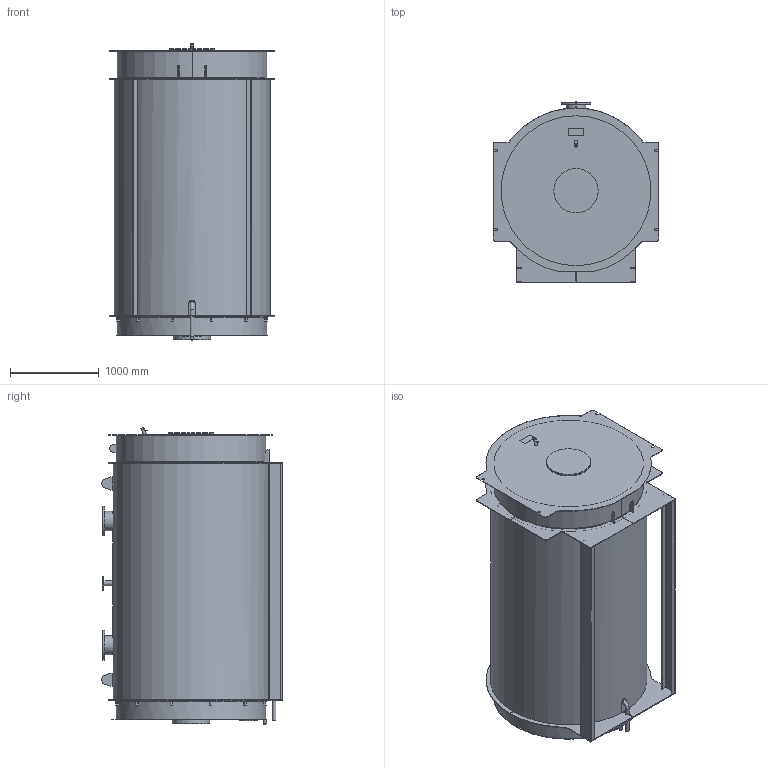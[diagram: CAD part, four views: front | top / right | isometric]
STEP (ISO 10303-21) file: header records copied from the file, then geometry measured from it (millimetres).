
FILE_DESCRIPTION(/* description */ (''),/* implementation_level */ '2;1');
FILE_NAME(/* name */ 'D:\Водогрейные 2х-ходовые котлы Гейзер\3D для проектировщиков\3D Гейзер 2500 кВт для проектировщика.stp',/* time_stamp */ '2024-08-15T00:16:55+07:00',/* author */ ('Александр'),/* organization */ (''),/* preprocessor_version */ 'ST-DEVELOPER v18.1',/* originating_system */ 'Autodesk Inventor 2021',/* authorisation */ '');
FILE_SCHEMA (('AUTOMOTIVE_DESIGN { 1 0 10303 214 3 1 1 }'));
Length unit declared in the file: millimetre
Products named in the file (1): Гейзер 2500 кВт_
Shrinkwrap_1
Bounding box: 1870 x 2037.81 x 3355.55 mm (x, y, z)
Volume: 7827893590.4 mm3; surface area: 30642269.9 mm2
Topology: 2 solids, 5 shells, 555 faces, 1506 edges, 950 vertices
Faces by surface type: plane 358, cylinder 166, cone 24, torus 6, bspline 1
Full cylindrical faces by diameter (mm): 4 x1, 6 x1, 7.8 x1, 8.7 x3, 21.939 x1, 25 x1, 26 x1, 33.5 x1, 38 x1, 42 x2, 57 x2, 160 x1, 210 x2, 219 x4, 335 x2, 420 x1, 500 x2, 1666 x2, 1691 x1, 1768 x1
Entity records: 18519 total; most frequent: CARTESIAN_POINT 3521, DIRECTION 3080, ORIENTED_EDGE 3014, EDGE_CURVE 1510, AXIS2_PLACEMENT_3D 1073, VERTEX_POINT 950, LINE 934, VECTOR 934
